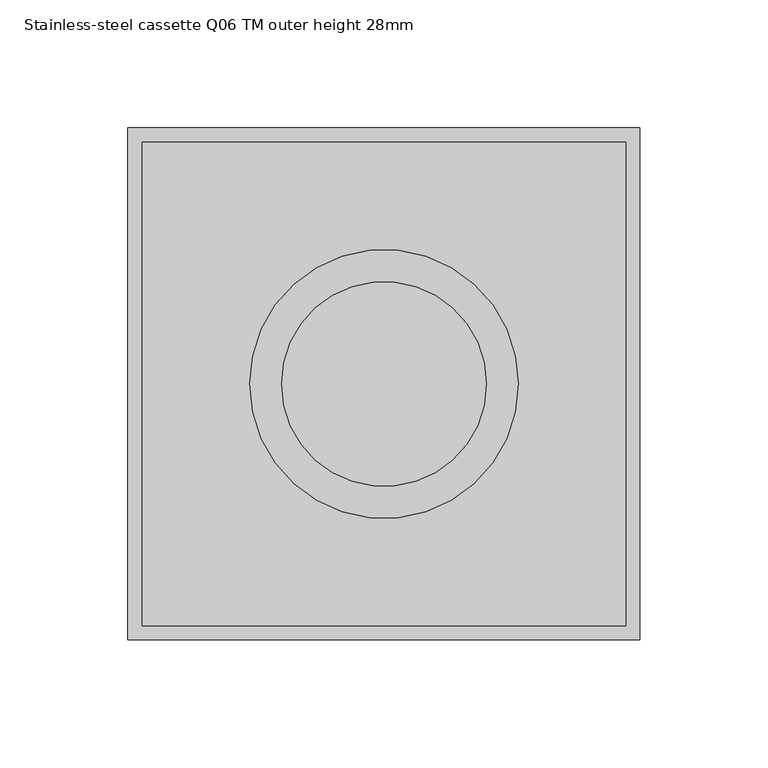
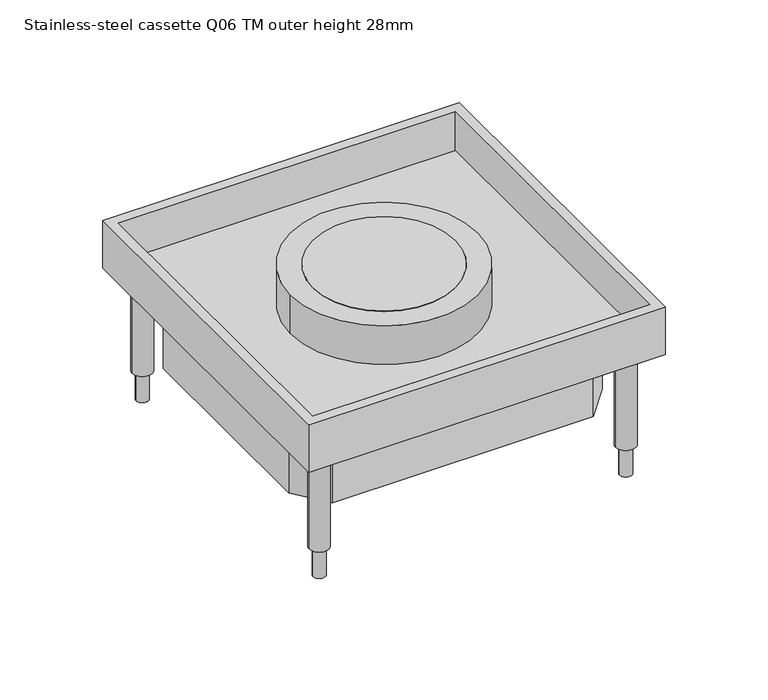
"""IFC4 building model written with IfcOpenShell, lengths in millimetres: proxy geometry, Electrical_Installation_Hager_VE-EE_EKQ-Height-adjustable-stainless-steel-cassette-with-tube-mounting-set-square-for-damp-cleaned-floors : Stainless-steel cassette Q06 TM outer height 28mm."""

from ifc_helpers import new_model, si_unit, point, frame, frame_2d, origin, origin_with_axes, origin_2d, place, context, project, spatial, polyline, circle_curve, trimmed, segment, composite_curve, outline, extrude, source, transform, mapped, element, save


def stainless_steel_cassette_q06_tm_outer_height_28mm_42a79757(model_context):
    return source(origin(), model_context, "Body", "SweptSolid", [
        extrude(outline(composite_curve([segment(trimmed(circle_curve(origin_2d(), 40.0), [point((-40.0, 0.0))], [point((40.0, 0.0))], False, "CARTESIAN"), True, "CONTINUOUS"), segment(trimmed(circle_curve(origin_2d(), 40.0), [point((40.0, 0.0))], [point((-40.0, 0.0))], False, "CARTESIAN"), True, "CONTINUOUS")], self_intersect=False)), origin_with_axes(), (0.0, 0.0, 1.0), 2.0),
        extrude(outline(composite_curve([segment(trimmed(circle_curve(origin_2d(), 52.5), [point((-52.5, 0.0))], [point((52.5, 0.0))], False, "CARTESIAN"), True, "CONTINUOUS"), segment(trimmed(circle_curve(origin_2d(), 52.5), [point((52.5, 0.0))], [point((-52.5, 0.0))], False, "CARTESIAN"), True, "CONTINUOUS")], self_intersect=False), holes=[composite_curve([segment(trimmed(circle_curve(origin_2d(), 40.0), [point((40.0, 0.0))], [point((-40.0, 0.0))], True, "CARTESIAN"), True, "CONTINUOUS"), segment(trimmed(circle_curve(origin_2d(), 40.0), [point((-40.0, 0.0))], [point((40.0, 0.0))], True, "CARTESIAN"), True, "CONTINUOUS")], self_intersect=False)]), frame((0.0, 0.0, -21.0), z_axis=(0.0, 0.0, 1.0), x_axis=(1.0, 0.0, 0.0)), (0.0, 0.0, 1.0), 23.0),
        extrude(outline(composite_curve([segment(trimmed(circle_curve(frame_2d((-86.0, 86.0)), 3.5), [point((-89.5, 86.0))], [point((-82.5, 86.0))], False, "CARTESIAN"), True, "CONTINUOUS"), segment(trimmed(circle_curve(frame_2d((-86.0, 86.0)), 3.5), [point((-82.5, 86.0))], [point((-89.5, 86.0))], False, "CARTESIAN"), True, "CONTINUOUS")], self_intersect=False)), frame((0.0, 0.0, -100.0), z_axis=(0.0, 0.0, 1.0), x_axis=(1.0, 0.0, 0.0)), (0.0, 0.0, 1.0), 17.0011554),
        extrude(outline(composite_curve([segment(trimmed(circle_curve(frame_2d((86.0, 86.0)), 3.5), [point((82.5, 86.0))], [point((89.5, 86.0))], False, "CARTESIAN"), True, "CONTINUOUS"), segment(trimmed(circle_curve(frame_2d((86.0, 86.0)), 3.5), [point((89.5, 86.0))], [point((82.5, 86.0))], False, "CARTESIAN"), True, "CONTINUOUS")], self_intersect=False)), frame((0.0, 0.0, -100.0), z_axis=(0.0, 0.0, 1.0), x_axis=(1.0, 0.0, 0.0)), (0.0, 0.0, 1.0), 17.0011554),
        extrude(outline(composite_curve([segment(trimmed(circle_curve(frame_2d((86.0, -86.0)), 3.523354), [point((82.476646, -86.0))], [point((89.523354, -86.0))], False, "CARTESIAN"), True, "CONTINUOUS"), segment(trimmed(circle_curve(frame_2d((86.0, -86.0)), 3.523354), [point((89.523354, -86.0))], [point((82.476646, -86.0))], False, "CARTESIAN"), True, "CONTINUOUS")], self_intersect=False)), frame((0.0, 0.0, -100.0), z_axis=(0.0, 0.0, 1.0), x_axis=(1.0, 0.0, 0.0)), (0.0, 0.0, 1.0), 17.0011554),
        extrude(outline(composite_curve([segment(trimmed(circle_curve(frame_2d((-86.0, -86.0)), 3.5), [point((-89.5, -86.0))], [point((-82.5, -86.0))], False, "CARTESIAN"), True, "CONTINUOUS"), segment(trimmed(circle_curve(frame_2d((-86.0, -86.0)), 3.5), [point((-82.5, -86.0))], [point((-89.5, -86.0))], False, "CARTESIAN"), True, "CONTINUOUS")], self_intersect=False)), frame((0.0, 0.0, -100.0), z_axis=(0.0, 0.0, 1.0), x_axis=(1.0, 0.0, 0.0)), (0.0, 0.0, 1.0), 17.0011554),
        extrude(outline(polyline([(4.7, 77.5), (73.3639966, 77.5), (88.0, 60.5470649), (88.0, -59.6394213), (72.7984665, -77.5), (-73.867755, -77.5), (-88.0, -59.6801256), (-88.0, 62.043544), (-73.6272863, 77.5), (4.7, 77.5)]), holes=[polyline([(-85.0, 60.8642535), (-85.0, -58.634929), (-72.4180331, -74.5), (71.4123304, -74.5), (85.0, -58.5355815), (85.0, 59.4312235), (71.9906502, 74.5), (4.7, 74.5), (-72.3203352, 74.5), (-85.0, 60.8642535)])]), frame((0.0, 0.0, -67.0), z_axis=(0.0, 0.0, 1.0), x_axis=(1.0, 0.0, 0.0)), (0.0, 0.0, 1.0), 41.0),
        extrude(outline(polyline([(94.5, 94.5), (94.5, -94.5), (-94.5, -94.5), (-94.5, 94.5), (94.5, 94.5)]), holes=[composite_curve([segment(trimmed(circle_curve(origin_2d(), 40.0), [point((-40.0, 0.0))], [point((40.0, 0.0))], True, "CARTESIAN"), True, "CONTINUOUS"), segment(trimmed(circle_curve(origin_2d(), 40.0), [point((40.0, 0.0))], [point((-40.0, 0.0))], True, "CARTESIAN"), True, "CONTINUOUS")], self_intersect=False)]), frame((0.0, 0.0, -26.0), z_axis=(0.0, 0.0, 1.0), x_axis=(1.0, 0.0, 0.0)), (0.0, 0.0, 1.0), 5.0),
        extrude(outline(composite_curve([segment(trimmed(circle_curve(frame_2d((-86.0, 86.0)), 5.5), [point((-91.5, 86.0))], [point((-80.5, 86.0))], False, "CARTESIAN"), True, "CONTINUOUS"), segment(trimmed(circle_curve(frame_2d((-86.0, 86.0)), 5.5), [point((-80.5, 86.0))], [point((-91.5, 86.0))], False, "CARTESIAN"), True, "CONTINUOUS")], self_intersect=False)), frame((0.0, 0.0, -82.9988446), z_axis=(0.0, 0.0, 1.0), x_axis=(1.0, 0.0, 0.0)), (0.0, 0.0, 1.0), 56.9988446),
        extrude(outline(composite_curve([segment(trimmed(circle_curve(frame_2d((86.0, 86.0)), 5.5), [point((80.5, 86.0))], [point((91.5, 86.0))], False, "CARTESIAN"), True, "CONTINUOUS"), segment(trimmed(circle_curve(frame_2d((86.0, 86.0)), 5.5), [point((91.5, 86.0))], [point((80.5, 86.0))], False, "CARTESIAN"), True, "CONTINUOUS")], self_intersect=False)), frame((0.0, 0.0, -82.9988446), z_axis=(0.0, 0.0, 1.0), x_axis=(1.0, 0.0, 0.0)), (0.0, 0.0, 1.0), 56.9988446),
        extrude(outline(composite_curve([segment(trimmed(circle_curve(frame_2d((-86.0, -86.0)), 5.5), [point((-91.5, -86.0))], [point((-80.5, -86.0))], False, "CARTESIAN"), True, "CONTINUOUS"), segment(trimmed(circle_curve(frame_2d((-86.0, -86.0)), 5.5), [point((-80.5, -86.0))], [point((-91.5, -86.0))], False, "CARTESIAN"), True, "CONTINUOUS")], self_intersect=False)), frame((0.0, 0.0, -82.9988446), z_axis=(0.0, 0.0, 1.0), x_axis=(1.0, 0.0, 0.0)), (0.0, 0.0, 1.0), 56.9988446),
        extrude(outline(composite_curve([segment(trimmed(circle_curve(frame_2d((86.0, -86.0)), 5.5), [point((80.5, -86.0))], [point((91.5, -86.0))], False, "CARTESIAN"), True, "CONTINUOUS"), segment(trimmed(circle_curve(frame_2d((86.0, -86.0)), 5.5), [point((91.5, -86.0))], [point((80.5, -86.0))], False, "CARTESIAN"), True, "CONTINUOUS")], self_intersect=False)), frame((0.0, 0.0, -82.9988446), z_axis=(0.0, 0.0, 1.0), x_axis=(1.0, 0.0, 0.0)), (0.0, 0.0, 1.0), 56.9988446),
        extrude(outline(polyline([(100.0, 100.0), (100.0, -100.0), (-100.0, -100.0), (-100.0, 100.0), (100.0, 100.0)]), holes=[polyline([(94.5, 94.5), (-94.5, 94.5), (-94.5, -94.5), (94.5, -94.5), (94.5, 94.5)])]), frame((0.0, 0.0, -26.0), z_axis=(0.0, 0.0, 1.0), x_axis=(1.0, 0.0, 0.0)), (0.0, 0.0, 1.0), 28.0),
    ])


if __name__ == "__main__":
    model = new_model("IFC4")
    model_context = context("Model", 3, world=origin())
    ifc_project = project(units=[si_unit("LENGTHUNIT", "METRE", prefix="MILLI")], contexts=[model_context])
    site = spatial("IfcSite", under=ifc_project)
    building = spatial("IfcBuilding", under=site)
    placement = place(None, origin())
    stainless_steel_cassette_q06_tm_outer_height_28mm_shape = stainless_steel_cassette_q06_tm_outer_height_28mm_42a79757(model_context)
    element("IfcBuildingElementProxy", 1, Name="Electrical_Installation_Hager_VE-EE_EKQ-Height-adjustable-stainless-steel-cassette-with-tube-mounting-set-square-for-damp-cleaned-floors : Stainless-steel cassette Q06 TM outer height 28mm", ObjectType="Electrical_Installation_Hager_VE-EE_EKQ-Height-adjustable-stainless-steel-cassette-with-tube-mounting-set-square-for-damp-cleaned-floors : Stainless-steel cassette Q06 TM outer height 28mm", at=placement, inside=building, context=model_context, shape_type="MappedRepresentation", body=[
        mapped(stainless_steel_cassette_q06_tm_outer_height_28mm_shape, transform((0.0, 0.0, 0.0), x_axis=(1.0, 0.0, 0.0), y_axis=(0.0, 1.0, 0.0), z_axis=(0.0, 0.0, 1.0))),
    ])
    save(model, "model.ifc")
